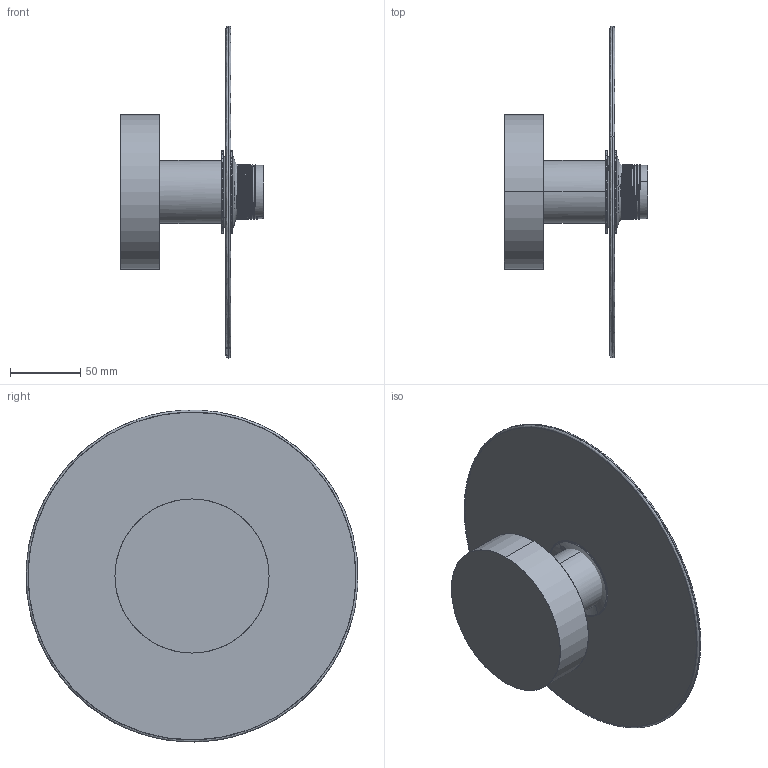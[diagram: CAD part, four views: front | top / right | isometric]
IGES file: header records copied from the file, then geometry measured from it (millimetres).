
Start section: SolidWorks IGES file using analytic representation for surfaces
Global section: file name: C:\Users\adrian\Desktop\MODELADOS USA\KASSY\A1097.IGS; native system: SolidWorks 2023; preprocessor: SolidWorks 2023; author: adrian; date: 260609.122838; units: inch
Bounding box: 102.76 x 236.83 x 236.97 mm (x, y, z)
Surface area: 154658.2 mm2 (no closed solid volume)
Topology: 0 solids, 0 shells, 209 faces, 5298 edges, 5298 vertices
Faces by surface type: bspline 207, revolution 2
